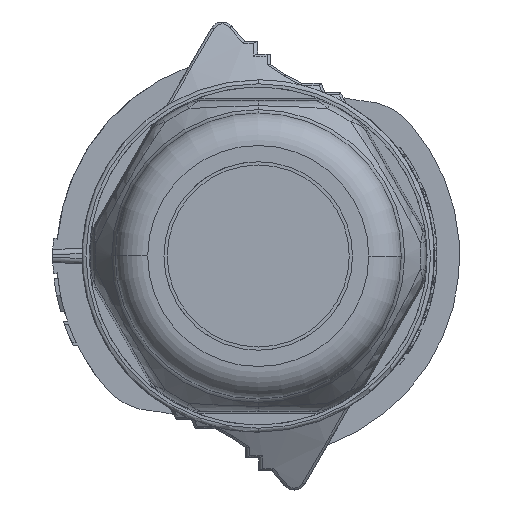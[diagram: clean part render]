
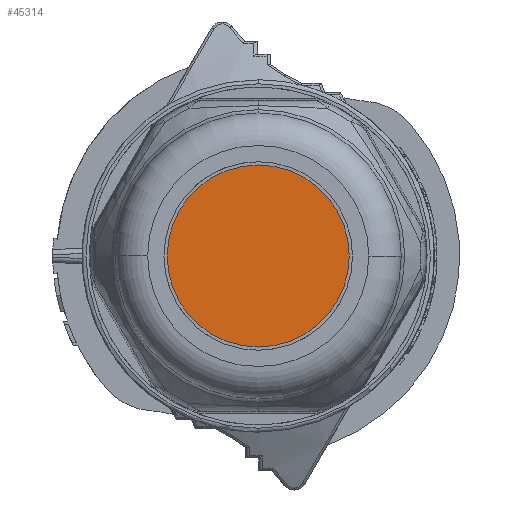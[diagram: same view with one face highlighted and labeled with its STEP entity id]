
A CAD part, left-side view. The second image highlights one B-rep face of the part: STEP entity #45314.
In plain terms, the highlighted planar face has unit normal (-1, 0, 0).
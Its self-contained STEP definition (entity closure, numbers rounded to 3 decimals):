
#13496=CARTESIAN_POINT('',(-27.2,0.,0.));
#13497=DIRECTION('',(-1.,0.,0.));
#13498=DIRECTION('',(0.,1.,0.));
#13499=AXIS2_PLACEMENT_3D('',#13496,#13497,#13498);
#13501=CARTESIAN_POINT('',(-27.2,0.,0.));
#13502=DIRECTION('',(-1.,0.,0.));
#13503=DIRECTION('',(0.,-1.,0.));
#13504=AXIS2_PLACEMENT_3D('',#13501,#13502,#13503);
#27789=CARTESIAN_POINT('',(-27.2,8.44,0.));
#27790=CARTESIAN_POINT('',(-27.2,-8.44,0.));
#27791=VERTEX_POINT('',#27789);
#27792=VERTEX_POINT('',#27790);
#45304=CARTESIAN_POINT('',(-27.2,0.,0.));
#45305=DIRECTION('',(1.,0.,0.));
#45306=DIRECTION('',(0.,0.,1.));
#45307=AXIS2_PLACEMENT_3D('',#45304,#45305,#45306);
#45308=PLANE('',#45307);
#45309=ORIENTED_EDGE('',*,*,#45294,.F.);
#45311=ORIENTED_EDGE('',*,*,#45310,.F.);
#45312=EDGE_LOOP('',(#45309,#45311));
#45313=FACE_OUTER_BOUND('',#45312,.F.);
#45314=ADVANCED_FACE('',(#45313),#45308,.F.);
#13500=CIRCLE('',#13499,8.44);
#13505=CIRCLE('',#13504,8.44);
#45294=EDGE_CURVE('',#27791,#27792,#13500,.T.);
#45310=EDGE_CURVE('',#27792,#27791,#13505,.T.);
